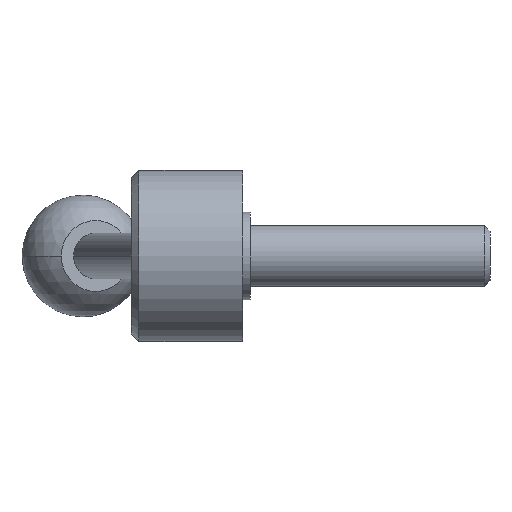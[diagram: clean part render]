
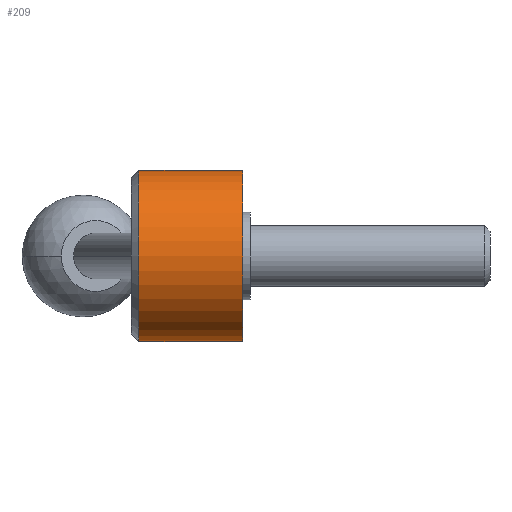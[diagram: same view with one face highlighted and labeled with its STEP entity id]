
A CAD part, left-side view. The second image highlights one B-rep face of the part: STEP entity #209.
In plain terms, the highlighted cylindrical face has radius 22.5 mm (diameter 45 mm), a partial arc.
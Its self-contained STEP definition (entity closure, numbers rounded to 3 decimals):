
#14 = CARTESIAN_POINT ( 'NONE',  ( 0., 0., 22.5 ) ) ;
#64 = DIRECTION ( 'NONE',  ( 0., -1., 0. ) ) ;
#102 = EDGE_LOOP ( 'NONE', ( #365, #638, #256, #579 ) ) ;
#106 = CARTESIAN_POINT ( 'NONE',  ( 0., 27.3, 0. ) ) ;
#112 = EDGE_CURVE ( 'NONE', #870, #573, #880, .T. ) ;
#115 = VERTEX_POINT ( 'NONE', #775 ) ;
#209 = ADVANCED_FACE ( 'NONE', ( #264 ), #803, .T. ) ;
#227 = CARTESIAN_POINT ( 'NONE',  ( 0., 0., 0. ) ) ;
#247 = CARTESIAN_POINT ( 'NONE',  ( 0., 27.3, -22.5 ) ) ;
#256 = ORIENTED_EDGE ( 'NONE', *, *, #553, .T. ) ;
#258 = CARTESIAN_POINT ( 'NONE',  ( 0., 0., 0. ) ) ;
#259 = AXIS2_PLACEMENT_3D ( 'NONE', #258, #64, #471 ) ;
#264 = FACE_OUTER_BOUND ( 'NONE', #102, .T. ) ;
#331 = DIRECTION ( 'NONE',  ( 0., 0., 1. ) ) ;
#349 = CARTESIAN_POINT ( 'NONE',  ( 0., 0., 22.5 ) ) ;
#365 = ORIENTED_EDGE ( 'NONE', *, *, #875, .F. ) ;
#386 = DIRECTION ( 'NONE',  ( 0., -1., 0. ) ) ;
#419 = DIRECTION ( 'NONE',  ( 0., -1., 0. ) ) ;
#422 = LINE ( 'NONE', #694, #701 ) ;
#471 = DIRECTION ( 'NONE',  ( 0., 0., -1. ) ) ;
#553 = EDGE_CURVE ( 'NONE', #610, #573, #422, .T. ) ;
#573 = VERTEX_POINT ( 'NONE', #651 ) ;
#579 = ORIENTED_EDGE ( 'NONE', *, *, #112, .F. ) ;
#610 = VERTEX_POINT ( 'NONE', #247 ) ;
#634 = CIRCLE ( 'NONE', #773, 22.5 ) ;
#638 = ORIENTED_EDGE ( 'NONE', *, *, #779, .T. ) ;
#651 = CARTESIAN_POINT ( 'NONE',  ( 0., 0., -22.5 ) ) ;
#694 = CARTESIAN_POINT ( 'NONE',  ( 0., 0., -22.5 ) ) ;
#701 = VECTOR ( 'NONE', #722, 1000. ) ;
#718 = VECTOR ( 'NONE', #419, 1000. ) ;
#722 = DIRECTION ( 'NONE',  ( 0., -1., 0. ) ) ;
#731 = AXIS2_PLACEMENT_3D ( 'NONE', #227, #760, #851 ) ;
#759 = LINE ( 'NONE', #14, #718 ) ;
#760 = DIRECTION ( 'NONE',  ( 0., -1., 0. ) ) ;
#773 = AXIS2_PLACEMENT_3D ( 'NONE', #106, #386, #331 ) ;
#775 = CARTESIAN_POINT ( 'NONE',  ( 0., 27.3, 22.5 ) ) ;
#779 = EDGE_CURVE ( 'NONE', #115, #610, #634, .T. ) ;
#803 = CYLINDRICAL_SURFACE ( 'NONE', #259, 22.5 ) ;
#851 = DIRECTION ( 'NONE',  ( 0., 0., -1. ) ) ;
#870 = VERTEX_POINT ( 'NONE', #349 ) ;
#875 = EDGE_CURVE ( 'NONE', #115, #870, #759, .T. ) ;
#880 = CIRCLE ( 'NONE', #731, 22.5 ) ;
